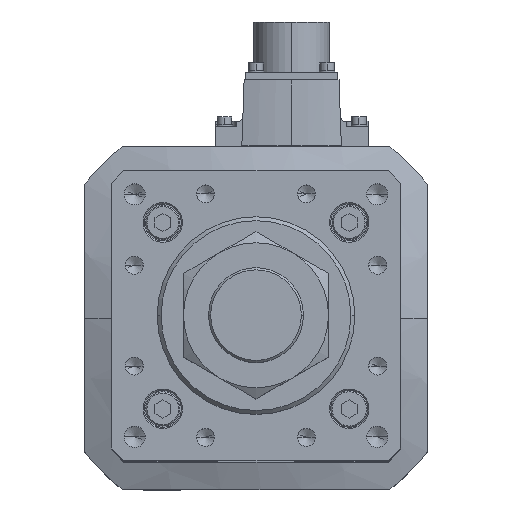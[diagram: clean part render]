
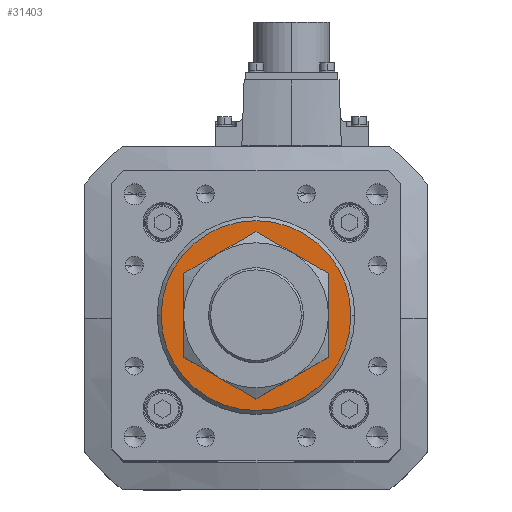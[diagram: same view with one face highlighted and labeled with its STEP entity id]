
A CAD part, top view. The second image highlights one B-rep face of the part: STEP entity #31403.
In plain terms, the highlighted planar face has unit normal (0, 0, 1).
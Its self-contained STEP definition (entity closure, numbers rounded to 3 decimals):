
#56 = DIRECTION ( 'NONE',  ( 0., 0., 1. ) ) ;
#387 = DIRECTION ( 'NONE',  ( 1., 0., 0. ) ) ;
#1294 = CARTESIAN_POINT ( 'NONE',  ( 36., 0., 296. ) ) ;
#1687 = EDGE_CURVE ( 'NONE', #18861, #7482, #6131, .T. ) ;
#2596 = DIRECTION ( 'NONE',  ( 1., 0., 0. ) ) ;
#2600 = DIRECTION ( 'NONE',  ( 1., 0., 0. ) ) ;
#3229 = EDGE_LOOP ( 'NONE', ( #36010, #29178 ) ) ;
#3805 = DIRECTION ( 'NONE',  ( 1., 0., 0. ) ) ;
#5506 = CIRCLE ( 'NONE', #14931, 23. ) ;
#6131 = CIRCLE ( 'NONE', #21480, 36. ) ;
#6465 = CARTESIAN_POINT ( 'NONE',  ( 0., 0., 296. ) ) ;
#7482 = VERTEX_POINT ( 'NONE', #8024 ) ;
#8024 = CARTESIAN_POINT ( 'NONE',  ( -36., 0., 296. ) ) ;
#10048 = VERTEX_POINT ( 'NONE', #37243 ) ;
#11050 = DIRECTION ( 'NONE',  ( 1., 0., 0. ) ) ;
#11823 = EDGE_CURVE ( 'NONE', #10048, #29132, #5506, .T. ) ;
#12062 = CIRCLE ( 'NONE', #24366, 23. ) ;
#12570 = CARTESIAN_POINT ( 'NONE',  ( 0., 0., 296. ) ) ;
#14931 = AXIS2_PLACEMENT_3D ( 'NONE', #34224, #31292, #11050 ) ;
#15856 = FACE_OUTER_BOUND ( 'NONE', #26376, .T. ) ;
#17230 = PLANE ( 'NONE',  #35468 ) ;
#17805 = DIRECTION ( 'NONE',  ( 0., 0., -1. ) ) ;
#18063 = DIRECTION ( 'NONE',  ( 0., 0., 1. ) ) ;
#18291 = AXIS2_PLACEMENT_3D ( 'NONE', #22453, #24757, #2600 ) ;
#18384 = CIRCLE ( 'NONE', #18291, 36. ) ;
#18861 = VERTEX_POINT ( 'NONE', #1294 ) ;
#21480 = AXIS2_PLACEMENT_3D ( 'NONE', #12570, #18063, #3805 ) ;
#22453 = CARTESIAN_POINT ( 'NONE',  ( 0., 0., 296. ) ) ;
#24366 = AXIS2_PLACEMENT_3D ( 'NONE', #6465, #17805, #387 ) ;
#24757 = DIRECTION ( 'NONE',  ( 0., 0., 1. ) ) ;
#26376 = EDGE_LOOP ( 'NONE', ( #35126, #28268 ) ) ;
#26999 = EDGE_CURVE ( 'NONE', #29132, #10048, #12062, .T. ) ;
#27748 = EDGE_CURVE ( 'NONE', #7482, #18861, #18384, .T. ) ;
#28268 = ORIENTED_EDGE ( 'NONE', *, *, #1687, .T. ) ;
#29132 = VERTEX_POINT ( 'NONE', #31973 ) ;
#29178 = ORIENTED_EDGE ( 'NONE', *, *, #11823, .T. ) ;
#31292 = DIRECTION ( 'NONE',  ( 0., 0., -1. ) ) ;
#31361 = FACE_BOUND ( 'NONE', #3229, .T. ) ;
#31403 = ADVANCED_FACE ( 'NONE', ( #31361, #15856 ), #17230, .T. ) ;
#31973 = CARTESIAN_POINT ( 'NONE',  ( 23., 0., 296. ) ) ;
#34224 = CARTESIAN_POINT ( 'NONE',  ( 0., 0., 296. ) ) ;
#35126 = ORIENTED_EDGE ( 'NONE', *, *, #27748, .T. ) ;
#35468 = AXIS2_PLACEMENT_3D ( 'NONE', #37620, #56, #2596 ) ;
#36010 = ORIENTED_EDGE ( 'NONE', *, *, #26999, .T. ) ;
#37243 = CARTESIAN_POINT ( 'NONE',  ( -23., 0., 296. ) ) ;
#37620 = CARTESIAN_POINT ( 'NONE',  ( 0., 0., 296. ) ) ;
